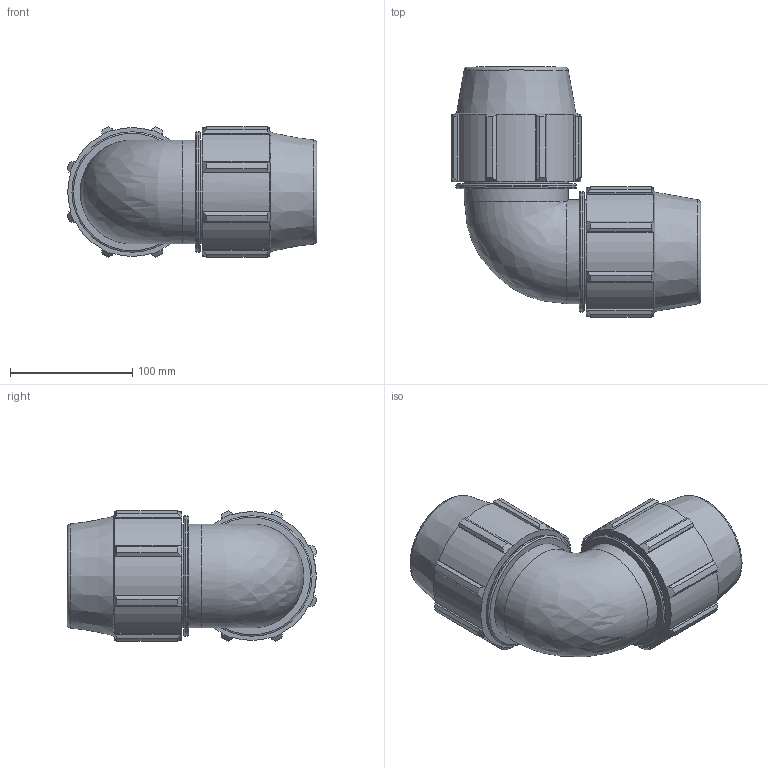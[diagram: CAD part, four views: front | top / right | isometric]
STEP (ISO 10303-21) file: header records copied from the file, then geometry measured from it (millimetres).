
FILE_DESCRIPTION(/* description */ ('PLASSON 90° ELBOW 2'''' - 2'''''),/* implementation_level */ '2;1');
FILE_NAME(/* name */ 'C:\Dropbox\KIMPROJECTS-Inventor 2019\99-16-3568-Processing Inch\ASTM Compression 2021\0705M0\0705M0020.ipt.stp',/* time_stamp */ '2021-08-26T12:31:59+03:00',/* author */ ('KIM'),/* organization */ (''),/* preprocessor_version */ 'ST-DEVELOPER v17.2',/* originating_system */ 'Autodesk Inventor 2019',/* authorisation */ '');
FILE_SCHEMA (('AUTOMOTIVE_DESIGN { 1 0 10303 214 3 1 1 }'));
Length unit declared in the file: inch
Products named in the file (1): 0705M0020
Bounding box: 204.05 x 204.05 x 106.35 mm (x, y, z)
Volume: 1275038.3 mm3; surface area: 164686.7 mm2
Topology: 1 solids, 1 shells, 148 faces, 436 edges, 298 vertices
Faces by surface type: plane 76, cylinder 40, cone 24, torus 7, bspline 1
Full cylindrical faces by diameter (mm): 60.1 x2, 84.772 x4, 98.336 x2
Entity records: 5177 total; most frequent: CARTESIAN_POINT 1035, ORIENTED_EDGE 868, DIRECTION 828, EDGE_CURVE 434, AXIS2_PLACEMENT_3D 310, VERTEX_POINT 298, LINE 208, VECTOR 208
